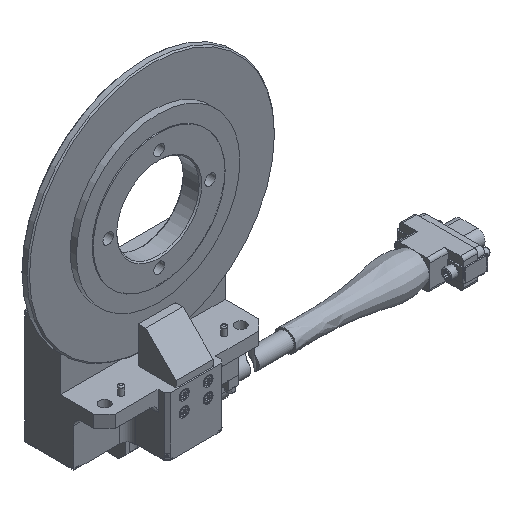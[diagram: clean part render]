
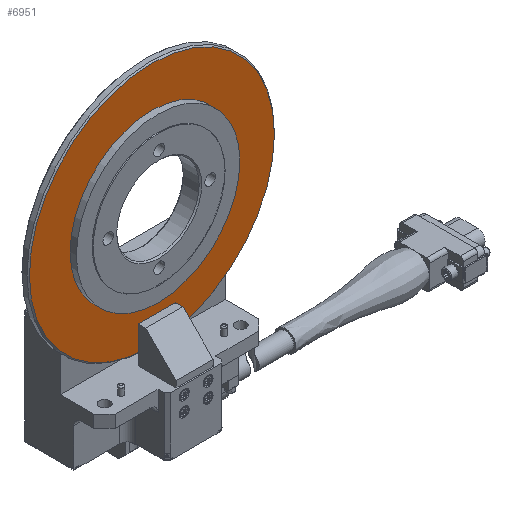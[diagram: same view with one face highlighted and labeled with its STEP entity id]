
A CAD part, isometric view. The second image highlights one B-rep face of the part: STEP entity #6951.
In plain terms, the highlighted planar face has unit normal (0, -1, 0).
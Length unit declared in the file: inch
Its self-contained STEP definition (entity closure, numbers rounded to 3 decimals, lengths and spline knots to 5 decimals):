
#3110 = VERTEX_POINT ( 'NONE', #84799 ) ;
#3358 = DIRECTION ( 'NONE',  ( 1., 0., 0. ) ) ;
#6951 = ADVANCED_FACE ( 'NONE', ( #69408, #76880 ), #45025, .F. ) ;
#20486 = CARTESIAN_POINT ( 'NONE',  ( 0., 0.093, 0.991 ) ) ;
#21027 = VERTEX_POINT ( 'NONE', #20486 ) ;
#28050 = DIRECTION ( 'NONE',  ( 0., 1., 0. ) ) ;
#33602 = EDGE_LOOP ( 'NONE', ( #47190 ) ) ;
#35039 = AXIS2_PLACEMENT_3D ( 'NONE', #68642, #43742, #3358 ) ;
#36242 = AXIS2_PLACEMENT_3D ( 'NONE', #43476, #28050, #68905 ) ;
#43268 = EDGE_CURVE ( 'NONE', #21027, #21027, #68479, .T. ) ;
#43476 = CARTESIAN_POINT ( 'NONE',  ( 0., 0.093, 0. ) ) ;
#43742 = DIRECTION ( 'NONE',  ( 0., -1., 0. ) ) ;
#45025 = PLANE ( 'NONE',  #36242 ) ;
#47190 = ORIENTED_EDGE ( 'NONE', *, *, #43268, .T. ) ;
#66979 = ORIENTED_EDGE ( 'NONE', *, *, #82741, .T. ) ;
#67536 = DIRECTION ( 'NONE',  ( 0., 1., 0. ) ) ;
#68052 = CARTESIAN_POINT ( 'NONE',  ( 0., 0.093, 0. ) ) ;
#68479 = CIRCLE ( 'NONE', #93765, 0.991 ) ;
#68642 = CARTESIAN_POINT ( 'NONE',  ( 0., 0.093, 0. ) ) ;
#68905 = DIRECTION ( 'NONE',  ( 1., 0., 0. ) ) ;
#69408 = FACE_BOUND ( 'NONE', #33602, .T. ) ;
#70650 = CIRCLE ( 'NONE', #35039, 1.485 ) ;
#76880 = FACE_OUTER_BOUND ( 'NONE', #86327, .T. ) ;
#82741 = EDGE_CURVE ( 'NONE', #3110, #3110, #70650, .T. ) ;
#84799 = CARTESIAN_POINT ( 'NONE',  ( 1.485, 0.093, 0. ) ) ;
#86327 = EDGE_LOOP ( 'NONE', ( #66979 ) ) ;
#93765 = AXIS2_PLACEMENT_3D ( 'NONE', #68052, #67536, #100355 ) ;
#100355 = DIRECTION ( 'NONE',  ( 0., 0., 1. ) ) ;
